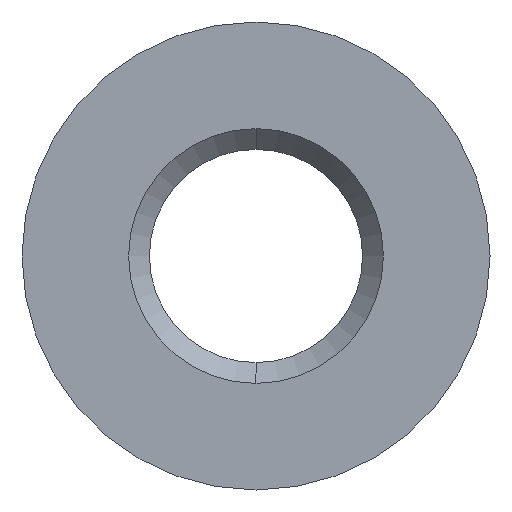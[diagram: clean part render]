
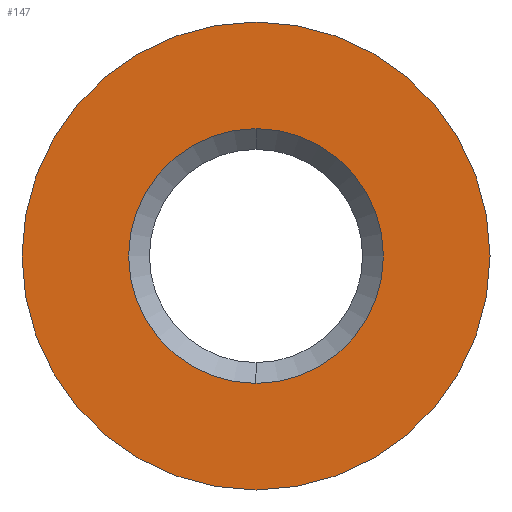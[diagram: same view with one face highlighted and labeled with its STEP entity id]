
A CAD part, left-side view. The second image highlights one B-rep face of the part: STEP entity #147.
In plain terms, the highlighted planar face has unit normal (-1, 0, 0).
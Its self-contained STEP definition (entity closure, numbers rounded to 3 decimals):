
#25 = FACE_OUTER_BOUND ( 'NONE', #292, .T. ) ;
#36 = DIRECTION ( 'NONE',  ( 0., 0., -1. ) ) ;
#40 = VERTEX_POINT ( 'NONE', #697 ) ;
#66 = EDGE_CURVE ( 'NONE', #768, #40, #488, .T. ) ;
#73 = VERTEX_POINT ( 'NONE', #360 ) ;
#77 = DIRECTION ( 'NONE',  ( 0., 0., -1. ) ) ;
#91 = ORIENTED_EDGE ( 'NONE', *, *, #827, .T. ) ;
#132 = DIRECTION ( 'NONE',  ( -1., 0., 0. ) ) ;
#147 = ADVANCED_FACE ( 'NONE', ( #423, #25 ), #567, .F. ) ;
#170 = EDGE_LOOP ( 'NONE', ( #584, #468 ) ) ;
#180 = CIRCLE ( 'NONE', #358, 2.25 ) ;
#204 = DIRECTION ( 'NONE',  ( 0., 0., -1. ) ) ;
#219 = DIRECTION ( 'NONE',  ( -1., 0., 0. ) ) ;
#237 = DIRECTION ( 'NONE',  ( 0., 0., -1. ) ) ;
#257 = ORIENTED_EDGE ( 'NONE', *, *, #271, .T. ) ;
#259 = CARTESIAN_POINT ( 'NONE',  ( -4.8, 0., -1.225 ) ) ;
#271 = EDGE_CURVE ( 'NONE', #73, #749, #329, .T. ) ;
#276 = AXIS2_PLACEMENT_3D ( 'NONE', #351, #433, #36 ) ;
#292 = EDGE_LOOP ( 'NONE', ( #257, #91 ) ) ;
#328 = CARTESIAN_POINT ( 'NONE',  ( -4.8, 0., 2.25 ) ) ;
#329 = CIRCLE ( 'NONE', #542, 2.25 ) ;
#351 = CARTESIAN_POINT ( 'NONE',  ( -4.8, 0., 0. ) ) ;
#358 = AXIS2_PLACEMENT_3D ( 'NONE', #624, #219, #621 ) ;
#360 = CARTESIAN_POINT ( 'NONE',  ( -4.8, 0., -2.25 ) ) ;
#393 = CARTESIAN_POINT ( 'NONE',  ( -4.8, 0., 0. ) ) ;
#423 = FACE_BOUND ( 'NONE', #170, .T. ) ;
#430 = CARTESIAN_POINT ( 'NONE',  ( -4.8, 2.25, 0. ) ) ;
#433 = DIRECTION ( 'NONE',  ( 1., 0., 0. ) ) ;
#462 = CIRCLE ( 'NONE', #832, 1.225 ) ;
#468 = ORIENTED_EDGE ( 'NONE', *, *, #66, .T. ) ;
#488 = CIRCLE ( 'NONE', #276, 1.225 ) ;
#498 = AXIS2_PLACEMENT_3D ( 'NONE', #430, #830, #237 ) ;
#542 = AXIS2_PLACEMENT_3D ( 'NONE', #798, #132, #204 ) ;
#549 = DIRECTION ( 'NONE',  ( 1., 0., 0. ) ) ;
#567 = PLANE ( 'NONE',  #498 ) ;
#581 = EDGE_CURVE ( 'NONE', #40, #768, #462, .T. ) ;
#584 = ORIENTED_EDGE ( 'NONE', *, *, #581, .T. ) ;
#621 = DIRECTION ( 'NONE',  ( 0., 0., -1. ) ) ;
#624 = CARTESIAN_POINT ( 'NONE',  ( -4.8, 0., 0. ) ) ;
#697 = CARTESIAN_POINT ( 'NONE',  ( -4.8, 0., 1.225 ) ) ;
#749 = VERTEX_POINT ( 'NONE', #328 ) ;
#768 = VERTEX_POINT ( 'NONE', #259 ) ;
#798 = CARTESIAN_POINT ( 'NONE',  ( -4.8, 0., 0. ) ) ;
#827 = EDGE_CURVE ( 'NONE', #749, #73, #180, .T. ) ;
#830 = DIRECTION ( 'NONE',  ( 1., 0., 0. ) ) ;
#832 = AXIS2_PLACEMENT_3D ( 'NONE', #393, #549, #77 ) ;
